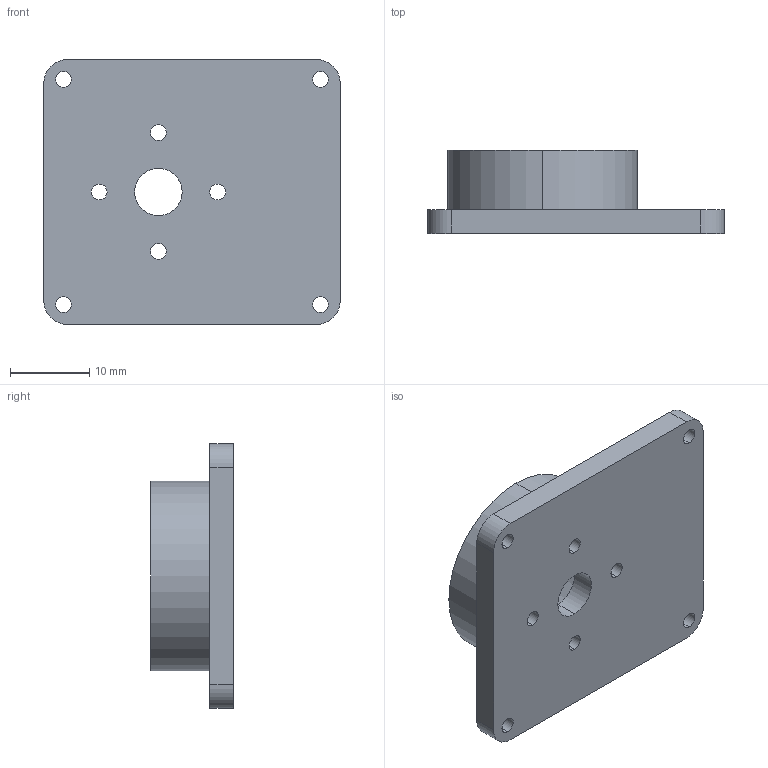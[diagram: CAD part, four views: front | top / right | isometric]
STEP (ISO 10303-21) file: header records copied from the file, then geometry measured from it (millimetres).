
FILE_DESCRIPTION (( 'STEP AP203' ), '1' );
FILE_NAME ('菁釱.ST', '2026-09-16T02:56:41', ( '' ), ( '' ), 'SwSTEP 2.0', 'SolidWorks 2024', '' );
FILE_SCHEMA (( 'CONFIG_CONTROL_DESIGN' ));
Length unit declared in the file: millimetre
Products named in the file (1): 底座
Bounding box: 37.5 x 10.5 x 33.5 mm (x, y, z)
Volume: 3862.2 mm3; surface area: 4115.5 mm2
Topology: 1 solids, 1 shells, 34 faces, 90 edges, 60 vertices
Faces by surface type: cylinder 26, plane 8
Entity records: 1199 total; most frequent: DIRECTION 212, CARTESIAN_POINT 185, ORIENTED_EDGE 180, EDGE_CURVE 90, AXIS2_PLACEMENT_3D 87, VERTEX_POINT 60, EDGE_LOOP 54, CIRCLE 52
